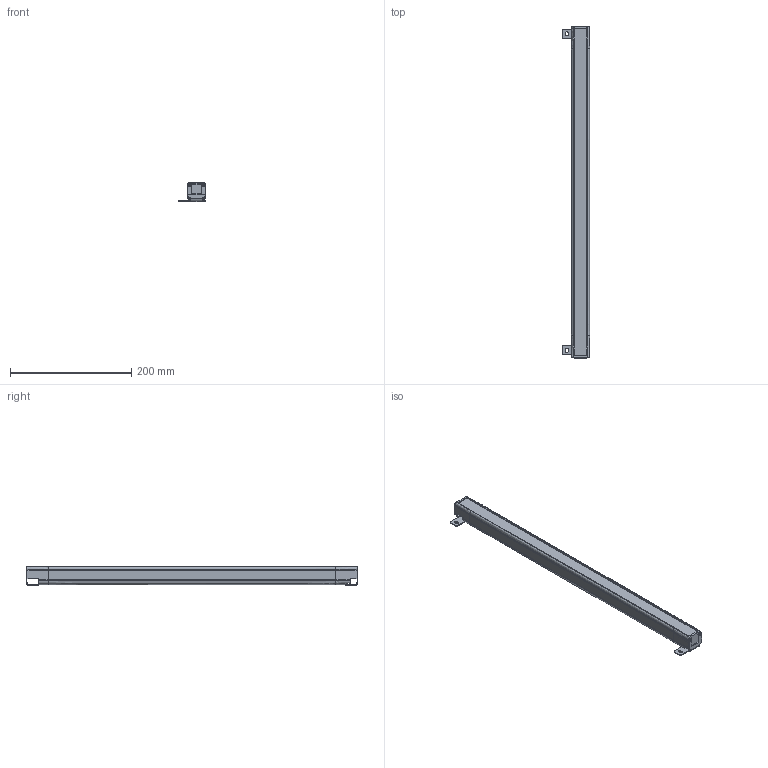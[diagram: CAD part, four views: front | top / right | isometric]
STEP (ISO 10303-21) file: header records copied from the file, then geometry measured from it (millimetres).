
FILE_DESCRIPTION(/* description */ (''),/* implementation_level */ '2;1');
FILE_NAME(/* name */ '5410(30X30).stp',/* time_stamp */ '2020-07-14T16:03:26+08:00',/* author */ (''),/* organization */ (''),/* preprocessor_version */ 'ST-DEVELOPER v16',/* originating_system */ 'SIEMENS PLM Software NX 10.0',/* authorisation */ '');
FILE_SCHEMA (('AP203_CONFIGURATION_CONTROLLED_3D_DESIGN_OF_MECHANICAL_PARTS_AND_ASSEMBLIES_MIM_LF { 1 0 10303 403 2 1 2}'));
Length unit declared in the file: millimetre
Products named in the file (1): Admi58A03253m5wp
Bounding box: 44.89 x 548.4 x 31.39 mm (x, y, z)
Volume: 169499 mm3; surface area: 182394.8 mm2
Topology: 6 solids, 6 shells, 441 faces, 1311 edges, 871 vertices
Faces by surface type: plane 256, cylinder 132, cone 32, bspline 14, extrusion 7
Full cylindrical faces by diameter (mm): 1.5 x2, 3.2 x8, 3.5 x8
Entity records: 15674 total; most frequent: CARTESIAN_POINT 3867, ORIENTED_EDGE 2528, DIRECTION 2314, EDGE_CURVE 1264, VECTOR 856, VERTEX_POINT 855, LINE 849, AXIS2_PLACEMENT_3D 729
